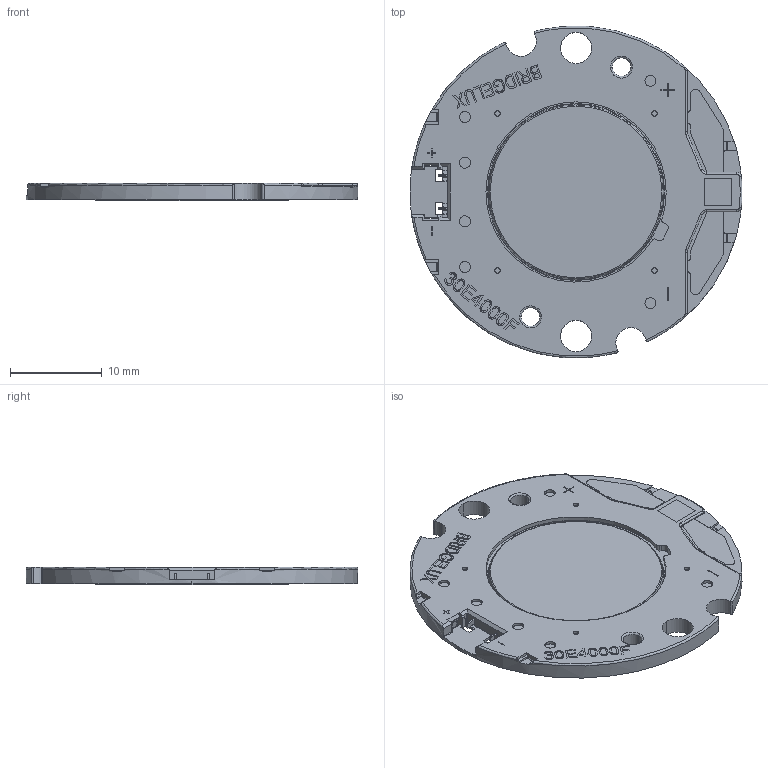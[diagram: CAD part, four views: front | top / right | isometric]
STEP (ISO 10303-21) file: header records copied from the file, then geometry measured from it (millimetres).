
FILE_DESCRIPTION (( 'STEP AP214' ), '1' );
FILE_NAME ('Vero18 Zhaga.STEP', '2014-02-10T18:11:16', ( '' ), ( '' ), 'SwSTEP 2.0', 'SolidWorks 2013', '' );
FILE_SCHEMA (( 'AUTOMOTIVE_DESIGN' ));
Length unit declared in the file: millimetre
Products named in the file (1): Vero18 Zhaga
Bounding box: 36.19 x 36.15 x 1.9 mm (x, y, z)
Volume: 1575 mm3; surface area: 3682.9 mm2
Topology: 11 solids, 13 shells, 931 faces, 2457 edges, 1596 vertices
Faces by surface type: plane 496, cylinder 257, bspline 149, cone 25, torus 4
Entity records: 45778 total; most frequent: CARTESIAN_POINT 13100, ORIENTED_EDGE 4896, DIRECTION 4278, EDGE_CURVE 2448, VERTEX_POINT 1596, VECTOR 1564, LINE 1564, AXIS2_PLACEMENT_3D 1357
